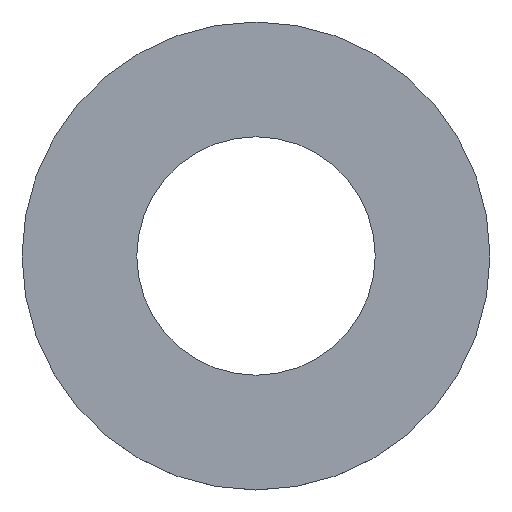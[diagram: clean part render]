
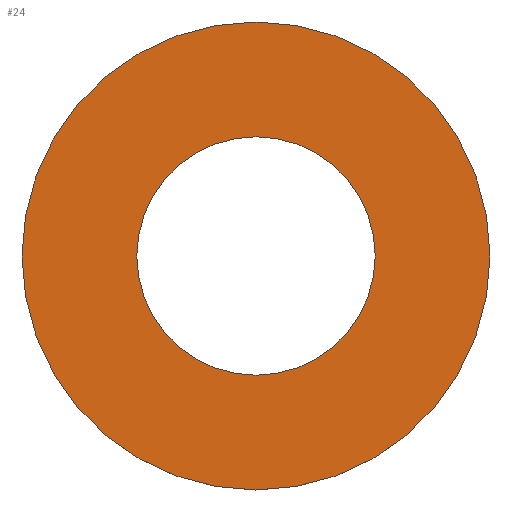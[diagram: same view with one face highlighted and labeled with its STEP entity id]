
A CAD part, top view. The second image highlights one B-rep face of the part: STEP entity #24.
In plain terms, the highlighted planar face has unit normal (0, 0, 1).
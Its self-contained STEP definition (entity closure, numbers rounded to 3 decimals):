
#5 = CIRCLE ( 'NONE', #99, 135. ) ;
#11 = CARTESIAN_POINT ( 'NONE',  ( -265., 0., 16. ) ) ;
#15 = VERTEX_POINT ( 'NONE', #122 ) ;
#16 = CARTESIAN_POINT ( 'NONE',  ( 0., 0., 16. ) ) ;
#19 = PLANE ( 'NONE',  #233 ) ;
#24 = ADVANCED_FACE ( 'NONE', ( #235, #33 ), #19, .F. ) ;
#28 = DIRECTION ( 'NONE',  ( -1., 0., 0. ) ) ;
#32 = CARTESIAN_POINT ( 'NONE',  ( 0., 0., 16. ) ) ;
#33 = FACE_OUTER_BOUND ( 'NONE', #82, .T. ) ;
#34 = DIRECTION ( 'NONE',  ( -1., 0., 0. ) ) ;
#37 = ORIENTED_EDGE ( 'NONE', *, *, #125, .F. ) ;
#50 = DIRECTION ( 'NONE',  ( 0., 0., -1. ) ) ;
#59 = VERTEX_POINT ( 'NONE', #218 ) ;
#76 = DIRECTION ( 'NONE',  ( 0., 0., -1. ) ) ;
#78 = ORIENTED_EDGE ( 'NONE', *, *, #107, .T. ) ;
#80 = DIRECTION ( 'NONE',  ( -1., 0., 0. ) ) ;
#82 = EDGE_LOOP ( 'NONE', ( #118, #37 ) ) ;
#88 = VERTEX_POINT ( 'NONE', #171 ) ;
#94 = AXIS2_PLACEMENT_3D ( 'NONE', #194, #188, #127 ) ;
#96 = CARTESIAN_POINT ( 'NONE',  ( 0., 0., 16. ) ) ;
#99 = AXIS2_PLACEMENT_3D ( 'NONE', #16, #50, #229 ) ;
#107 = EDGE_CURVE ( 'NONE', #59, #88, #207, .T. ) ;
#118 = ORIENTED_EDGE ( 'NONE', *, *, #130, .F. ) ;
#122 = CARTESIAN_POINT ( 'NONE',  ( 265., 0., 16. ) ) ;
#125 = EDGE_CURVE ( 'NONE', #164, #15, #144, .T. ) ;
#127 = DIRECTION ( 'NONE',  ( -1., 0., 0. ) ) ;
#128 = ORIENTED_EDGE ( 'NONE', *, *, #135, .T. ) ;
#130 = EDGE_CURVE ( 'NONE', #15, #164, #226, .T. ) ;
#135 = EDGE_CURVE ( 'NONE', #88, #59, #5, .T. ) ;
#144 = CIRCLE ( 'NONE', #187, 265. ) ;
#154 = DIRECTION ( 'NONE',  ( 0., 0., -1. ) ) ;
#164 = VERTEX_POINT ( 'NONE', #11 ) ;
#168 = EDGE_LOOP ( 'NONE', ( #78, #128 ) ) ;
#171 = CARTESIAN_POINT ( 'NONE',  ( -135., 0., 16. ) ) ;
#187 = AXIS2_PLACEMENT_3D ( 'NONE', #231, #154, #28 ) ;
#188 = DIRECTION ( 'NONE',  ( 0., 0., -1. ) ) ;
#194 = CARTESIAN_POINT ( 'NONE',  ( 0., 0., 16. ) ) ;
#206 = AXIS2_PLACEMENT_3D ( 'NONE', #32, #217, #34 ) ;
#207 = CIRCLE ( 'NONE', #206, 135. ) ;
#217 = DIRECTION ( 'NONE',  ( 0., 0., -1. ) ) ;
#218 = CARTESIAN_POINT ( 'NONE',  ( 135., 0., 16. ) ) ;
#226 = CIRCLE ( 'NONE', #94, 265. ) ;
#229 = DIRECTION ( 'NONE',  ( -1., 0., 0. ) ) ;
#231 = CARTESIAN_POINT ( 'NONE',  ( 0., 0., 16. ) ) ;
#233 = AXIS2_PLACEMENT_3D ( 'NONE', #96, #76, #80 ) ;
#235 = FACE_BOUND ( 'NONE', #168, .T. ) ;
